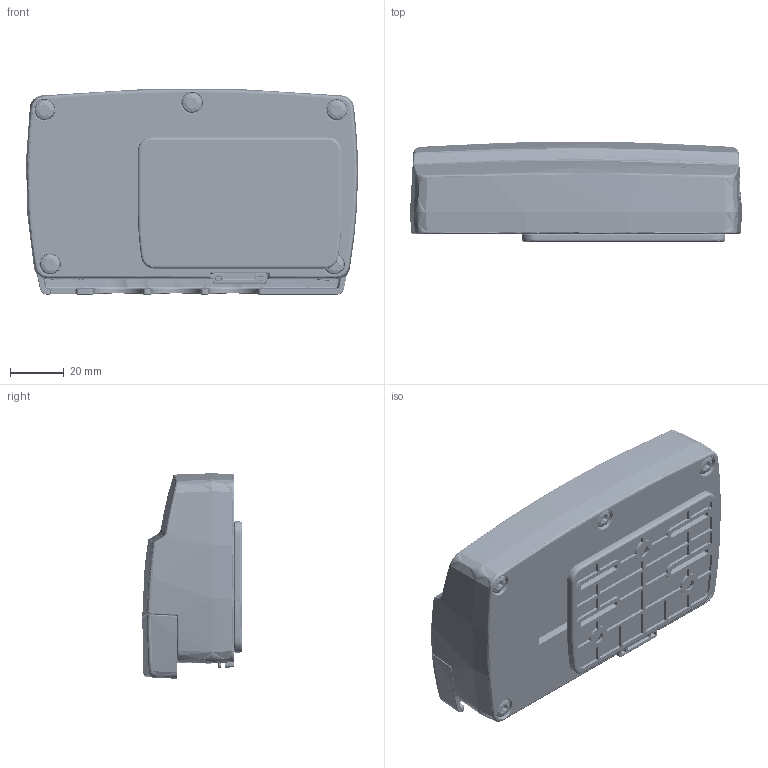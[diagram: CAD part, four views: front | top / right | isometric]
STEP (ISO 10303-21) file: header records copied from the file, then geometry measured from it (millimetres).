
FILE_DESCRIPTION (( 'STEP AP203' ), '1' );
FILE_NAME ('3D_TRF4.STEP', '2022-04-06T02:06:01', ( '' ), ( '' ), 'SwSTEP 2.0', 'SolidWorks 2015', '' );
FILE_SCHEMA (( 'CONFIG_CONTROL_DESIGN' ));
Length unit declared in the file: millimetre
Products named in the file (9): TRF4; TRF4-ID-B-locker; TRF4-ID-B-Down; TRF4-ID-B-Cover; TRF4-ID-B-Top; 3D_TRF4; M4x10す帣赻馴蹟緲; TRF4-ID-B-SDcard-cap; TRF4-ID-B-Bracket-board
Assembly tree (8 placements, depth 3):
  3D_TRF4
    TRF4
      TRF4-ID-B-Top
      TRF4-ID-B-Down
      TRF4-ID-B-Cover
      TRF4-ID-B-SDcard-cap
      M4x10す帣赻馴蹟緲
    TRF4-ID-B-Bracket-board
    TRF4-ID-B-locker
Bounding box: 123.95 x 37.49 x 76.74 mm (x, y, z)
Volume: 178289.9 mm3; surface area: 191748.4 mm2
Topology: 17 solids, 20 shells, 7476 faces, 19161 edges, 11950 vertices
Faces by surface type: plane 2761, bspline 2583, cylinder 1506, cone 450, torus 96, sphere 80
Entity records: 339296 total; most frequent: CARTESIAN_POINT 181434, ORIENTED_EDGE 38116, DIRECTION 24136, EDGE_CURVE 19060, VERTEX_POINT 11938, VECTOR 8552, LINE 8552, EDGE_LOOP 7920
